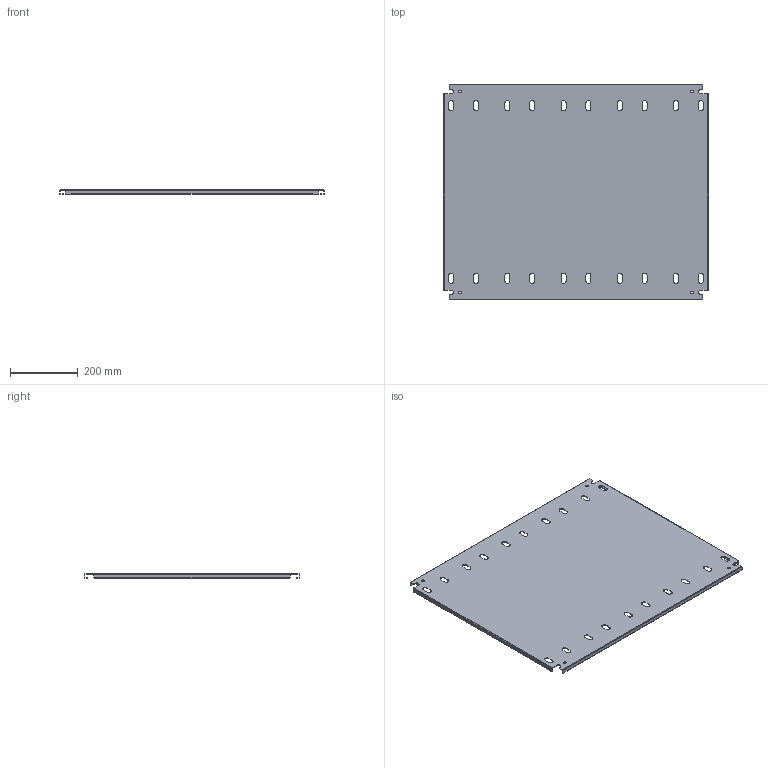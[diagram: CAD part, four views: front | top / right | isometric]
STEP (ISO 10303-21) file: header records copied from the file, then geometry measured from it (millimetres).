
FILE_DESCRIPTION(/* description */ ('1412BTCU 30.625" x 28" Right Inner Panel'),/* implementation_level */ '2;1');
FILE_NAME(/* name */ 'C:\Vault_Workspace\Inventor_Dwg\BoxCad\Result\1412BTCU08805DT\e-mail\3D\1412BTCU08805DTIP2.stp',/* time_stamp */ '2022-10-20T12:28:42-04:00',/* author */ ('BoxCad'),/* organization */ (''),/* preprocessor_version */ 'ST-DEVELOPER v18.1',/* originating_system */ 'Autodesk Inventor 2020',/* authorisation */ '');
FILE_SCHEMA (('AUTOMOTIVE_DESIGN { 1 0 10303 214 3 1 1 }'));
Length unit declared in the file: inch
Products named in the file (2): 1412BTCU08805DTIP2; 1412BTCU08805DTIP2-P
Assembly tree (1 placements, depth 2):
  1412BTCU08805DTIP2
    1412BTCU08805DTIP2-P
Bounding box: 777.88 x 635 x 13 mm (x, y, z)
Volume: 919562 mm3; surface area: 1072880.9 mm2
Topology: 1 solids, 1 shells, 190 faces, 564 edges, 376 vertices
Faces by surface type: plane 106, cylinder 84
Full cylindrical faces by diameter (mm): 7.366 x4
Entity records: 6561 total; most frequent: CARTESIAN_POINT 1133, ORIENTED_EDGE 1128, DIRECTION 1118, EDGE_CURVE 564, LINE 396, VECTOR 396, VERTEX_POINT 376, AXIS2_PLACEMENT_3D 361
